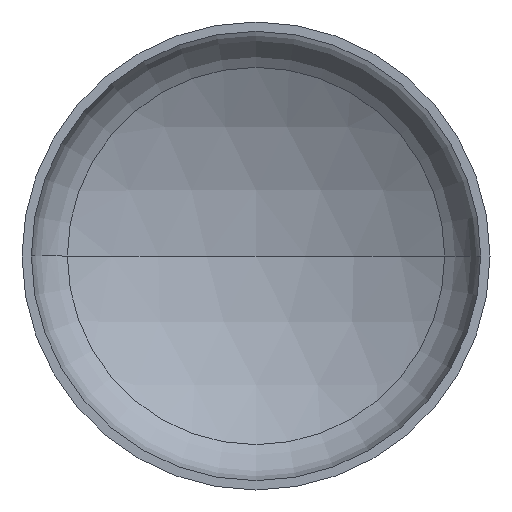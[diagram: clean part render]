
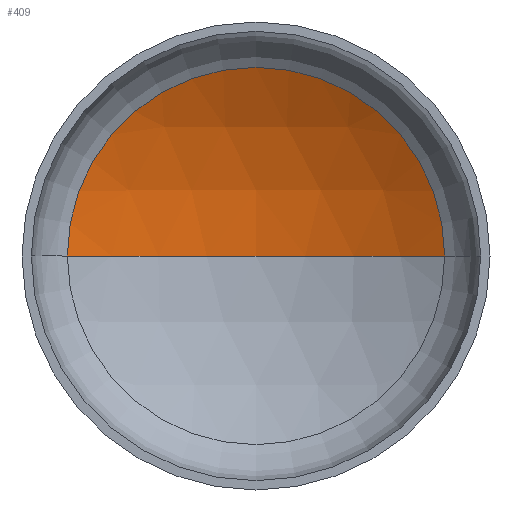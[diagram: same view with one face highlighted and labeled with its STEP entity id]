
A CAD part, front view. The second image highlights one B-rep face of the part: STEP entity #409.
In plain terms, the highlighted spherical face has radius 1600 mm.
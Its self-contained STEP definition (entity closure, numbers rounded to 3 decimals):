
#2 = AXIS2_PLACEMENT_3D ( 'NONE', #105, #403, #270 ) ;
#5 = AXIS2_PLACEMENT_3D ( 'NONE', #297, #144, #318 ) ;
#13 = AXIS2_PLACEMENT_3D ( 'NONE', #150, #368, #174 ) ;
#15 = EDGE_LOOP ( 'NONE', ( #385, #31, #132 ) ) ;
#27 = CIRCLE ( 'NONE', #2, 806.202 ) ;
#31 = ORIENTED_EDGE ( 'NONE', *, *, #389, .T. ) ;
#38 = CARTESIAN_POINT ( 'NONE',  ( 0., -994.271, 0. ) ) ;
#50 = VERTEX_POINT ( 'NONE', #265 ) ;
#57 = CIRCLE ( 'NONE', #13, 1600. ) ;
#79 = VERTEX_POINT ( 'NONE', #242 ) ;
#105 = CARTESIAN_POINT ( 'NONE',  ( 0., 387.771, 0. ) ) ;
#132 = ORIENTED_EDGE ( 'NONE', *, *, #397, .T. ) ;
#135 = VERTEX_POINT ( 'NONE', #306 ) ;
#144 = DIRECTION ( 'NONE',  ( 0., 0., -1. ) ) ;
#150 = CARTESIAN_POINT ( 'NONE',  ( 0., -994.271, 0. ) ) ;
#174 = DIRECTION ( 'NONE',  ( 1., 0., 0. ) ) ;
#192 = CIRCLE ( 'NONE', #5, 1600. ) ;
#242 = CARTESIAN_POINT ( 'NONE',  ( 806.202, 387.771, 0. ) ) ;
#247 = DIRECTION ( 'NONE',  ( -1., 0., 0. ) ) ;
#248 = DIRECTION ( 'NONE',  ( 0., 0., -1. ) ) ;
#253 = FACE_OUTER_BOUND ( 'NONE', #15, .T. ) ;
#265 = CARTESIAN_POINT ( 'NONE',  ( 0., 605.729, 0. ) ) ;
#270 = DIRECTION ( 'NONE',  ( 1., 0., 0. ) ) ;
#272 = AXIS2_PLACEMENT_3D ( 'NONE', #38, #248, #247 ) ;
#297 = CARTESIAN_POINT ( 'NONE',  ( 0., -994.271, 0. ) ) ;
#304 = SPHERICAL_SURFACE ( 'NONE', #272, 1600. ) ;
#306 = CARTESIAN_POINT ( 'NONE',  ( -806.202, 387.771, 0. ) ) ;
#318 = DIRECTION ( 'NONE',  ( -1., 0., 0. ) ) ;
#368 = DIRECTION ( 'NONE',  ( 0., 0., 1. ) ) ;
#376 = EDGE_CURVE ( 'NONE', #50, #135, #57, .T. ) ;
#385 = ORIENTED_EDGE ( 'NONE', *, *, #376, .F. ) ;
#389 = EDGE_CURVE ( 'NONE', #50, #79, #192, .T. ) ;
#397 = EDGE_CURVE ( 'NONE', #79, #135, #27, .T. ) ;
#403 = DIRECTION ( 'NONE',  ( 0., -1., 0. ) ) ;
#409 = ADVANCED_FACE ( 'NONE', ( #253 ), #304, .F. ) ;
